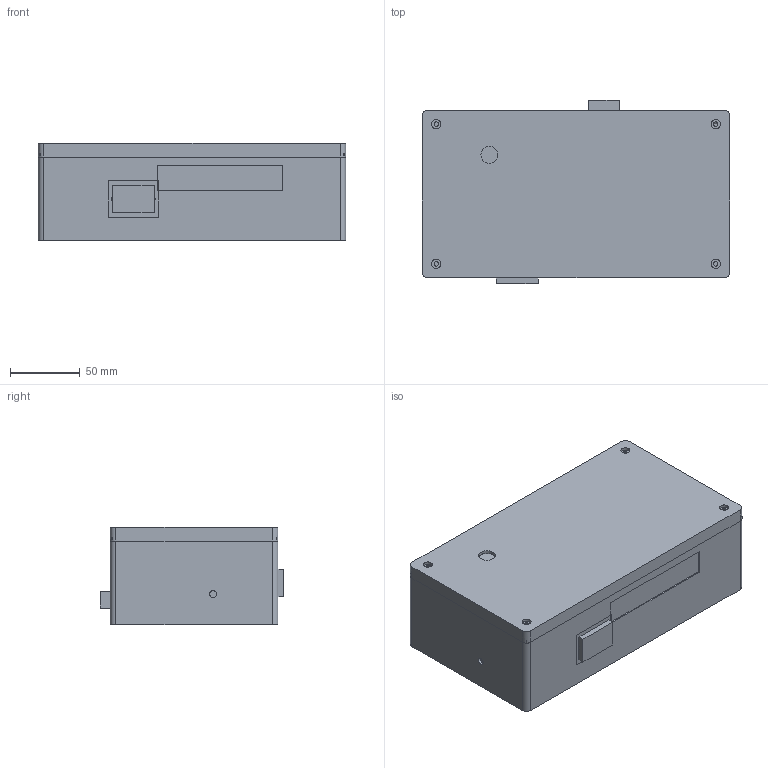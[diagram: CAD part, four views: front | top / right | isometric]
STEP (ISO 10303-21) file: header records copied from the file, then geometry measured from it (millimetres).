
FILE_DESCRIPTION(('Open CASCADE Model'),'2;1');
FILE_NAME('Open CASCADE Shape Model','2026-11-20T16:45:27',('Author'),( 'Open CASCADE'),'Open CASCADE STEP processor 7.9','Open CASCADE 7.9' ,'Unknown');
FILE_SCHEMA(('AUTOMOTIVE_DESIGN { 1 0 10303 214 1 1 1 1 }'));
Length unit declared in the file: millimetre
Products named in the file (20): smartplug_core_only_shopee; body_bottom; body_top; gasket; usb_cover; devkit_key; carrier_pcb; button; devkit_rgb_window; pzem; pzem_bracket; ct; psu_board; psu_bracket; relay_shelf; relay; pe_stud; socket; gland; barrier
Assembly tree (19 placements, depth 2):
  smartplug_core_only_shopee
    body_bottom
    body_top
    gasket
    usb_cover
    devkit_key
    carrier_pcb
    button
    devkit_rgb_window
    pzem
    pzem_bracket
    ct
    psu_board
    psu_bracket
    relay_shelf
    relay
    pe_stud
    socket
    gland
    barrier
Bounding box: 220 x 131 x 70 mm (x, y, z)
Volume: 570349.1 mm3; surface area: 316431.2 mm2
Topology: 19 solids, 19 shells, 335 faces, 747 edges, 492 vertices
Faces by surface type: plane 246, cylinder 89
Full cylindrical faces by diameter (mm): 2.5 x9, 3.2 x8, 3.3 x4, 4.2 x8, 4.3 x1, 4.5 x4, 5 x1, 6 x6, 6.5 x4, 8 x8, 10 x5, 12 x1, 16.3 x1, 22 x1, 45.6 x1
Entity records: 21988 total; most frequent: CARTESIAN_POINT 5986, DIRECTION 2943, LINE 1603, VECTOR 1603, ORIENTED_EDGE 1494, PCURVE 1494, DEFINITIONAL_REPRESENTATION 1494, EDGE_CURVE 747
